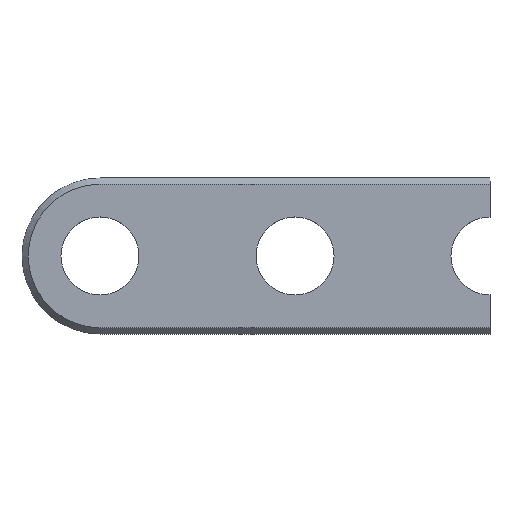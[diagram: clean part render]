
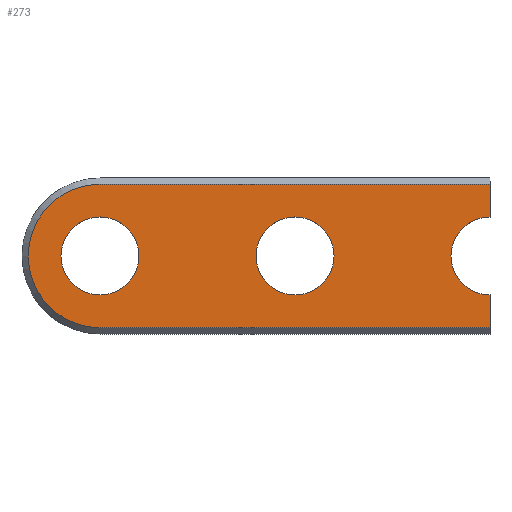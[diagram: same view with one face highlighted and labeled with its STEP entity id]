
A CAD part, top view. The second image highlights one B-rep face of the part: STEP entity #273.
In plain terms, the highlighted planar face has unit normal (0, 0, 1).
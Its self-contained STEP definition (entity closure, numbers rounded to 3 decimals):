
#7 = ORIENTED_EDGE ( 'NONE', *, *, #431, .F. ) ;
#10 = CARTESIAN_POINT ( 'NONE',  ( -46., 50., 20. ) ) ;
#11 = VERTEX_POINT ( 'NONE', #63 ) ;
#16 = VERTEX_POINT ( 'NONE', #308 ) ;
#21 = EDGE_CURVE ( 'NONE', #252, #81, #108, .T. ) ;
#27 = CIRCLE ( 'NONE', #348, 25. ) ;
#28 = CIRCLE ( 'NONE', #298, 25. ) ;
#45 = DIRECTION ( 'NONE',  ( 1., 0., 0. ) ) ;
#51 = AXIS2_PLACEMENT_3D ( 'NONE', #743, #634, #278 ) ;
#53 = DIRECTION ( 'NONE',  ( 0., 0., 1. ) ) ;
#54 = CARTESIAN_POINT ( 'NONE',  ( 0., 50., 20. ) ) ;
#60 = DIRECTION ( 'NONE',  ( 0., 0., 1. ) ) ;
#63 = CARTESIAN_POINT ( 'NONE',  ( 237.5, 28.349, 20. ) ) ;
#68 = DIRECTION ( 'NONE',  ( 1., 0., 0. ) ) ;
#74 = VECTOR ( 'NONE', #414, 1000. ) ;
#79 = CARTESIAN_POINT ( 'NONE',  ( 250., 25., 20. ) ) ;
#81 = VERTEX_POINT ( 'NONE', #574 ) ;
#82 = CARTESIAN_POINT ( 'NONE',  ( 250., 50., 20. ) ) ;
#89 = ORIENTED_EDGE ( 'NONE', *, *, #235, .F. ) ;
#105 = EDGE_CURVE ( 'NONE', #207, #233, #444, .T. ) ;
#108 = CIRCLE ( 'NONE', #463, 25. ) ;
#115 = CIRCLE ( 'NONE', #130, 46. ) ;
#117 = DIRECTION ( 'NONE',  ( 0., 0., 1. ) ) ;
#123 = VERTEX_POINT ( 'NONE', #341 ) ;
#125 = CARTESIAN_POINT ( 'NONE',  ( 250., 4., 20. ) ) ;
#128 = CIRCLE ( 'NONE', #555, 25. ) ;
#130 = AXIS2_PLACEMENT_3D ( 'NONE', #744, #571, #516 ) ;
#139 = DIRECTION ( 'NONE',  ( 1., 0., 0. ) ) ;
#147 = VERTEX_POINT ( 'NONE', #345 ) ;
#150 = ORIENTED_EDGE ( 'NONE', *, *, #719, .T. ) ;
#157 = VECTOR ( 'NONE', #543, 1000. ) ;
#167 = VECTOR ( 'NONE', #254, 1000. ) ;
#174 = DIRECTION ( 'NONE',  ( 0., 0., 1. ) ) ;
#176 = CIRCLE ( 'NONE', #676, 25. ) ;
#179 = CARTESIAN_POINT ( 'NONE',  ( 100., 50., 20. ) ) ;
#190 = CIRCLE ( 'NONE', #51, 25. ) ;
#202 = CARTESIAN_POINT ( 'NONE',  ( 0., 50., 20. ) ) ;
#207 = VERTEX_POINT ( 'NONE', #10 ) ;
#215 = DIRECTION ( 'NONE',  ( 0., 0., 1. ) ) ;
#233 = VERTEX_POINT ( 'NONE', #544 ) ;
#235 = EDGE_CURVE ( 'NONE', #446, #598, #28, .T. ) ;
#238 = ORIENTED_EDGE ( 'NONE', *, *, #624, .T. ) ;
#252 = VERTEX_POINT ( 'NONE', #580 ) ;
#254 = DIRECTION ( 'NONE',  ( 0., 1., 0. ) ) ;
#258 = VECTOR ( 'NONE', #710, 1000. ) ;
#273 = ADVANCED_FACE ( 'NONE', ( #305, #690, #492 ), #523, .T. ) ;
#278 = DIRECTION ( 'NONE',  ( 1., 0., 0. ) ) ;
#291 = CARTESIAN_POINT ( 'NONE',  ( 125., 50., 20. ) ) ;
#293 = ORIENTED_EDGE ( 'NONE', *, *, #587, .F. ) ;
#298 = AXIS2_PLACEMENT_3D ( 'NONE', #636, #708, #139 ) ;
#302 = LINE ( 'NONE', #701, #258 ) ;
#305 = FACE_BOUND ( 'NONE', #468, .T. ) ;
#308 = CARTESIAN_POINT ( 'NONE',  ( 0., 96., 20. ) ) ;
#319 = VERTEX_POINT ( 'NONE', #79 ) ;
#341 = CARTESIAN_POINT ( 'NONE',  ( 250., 96., 20. ) ) ;
#345 = CARTESIAN_POINT ( 'NONE',  ( 250., 4., 20. ) ) ;
#348 = AXIS2_PLACEMENT_3D ( 'NONE', #521, #60, #685 ) ;
#355 = CARTESIAN_POINT ( 'NONE',  ( 150., 50., 20. ) ) ;
#414 = DIRECTION ( 'NONE',  ( 0., 1., 0. ) ) ;
#418 = AXIS2_PLACEMENT_3D ( 'NONE', #728, #215, #611 ) ;
#431 = EDGE_CURVE ( 'NONE', #553, #542, #742, .T. ) ;
#436 = ORIENTED_EDGE ( 'NONE', *, *, #613, .F. ) ;
#444 = CIRCLE ( 'NONE', #740, 46. ) ;
#446 = VERTEX_POINT ( 'NONE', #513 ) ;
#455 = DIRECTION ( 'NONE',  ( 1., 0., 0. ) ) ;
#463 = AXIS2_PLACEMENT_3D ( 'NONE', #472, #641, #68 ) ;
#468 = EDGE_LOOP ( 'NONE', ( #485, #712 ) ) ;
#472 = CARTESIAN_POINT ( 'NONE',  ( 0., 50., 20. ) ) ;
#482 = LINE ( 'NONE', #82, #74 ) ;
#484 = ORIENTED_EDGE ( 'NONE', *, *, #489, .F. ) ;
#485 = ORIENTED_EDGE ( 'NONE', *, *, #21, .F. ) ;
#489 = EDGE_CURVE ( 'NONE', #11, #319, #190, .T. ) ;
#491 = LINE ( 'NONE', #646, #167 ) ;
#492 = FACE_OUTER_BOUND ( 'NONE', #609, .T. ) ;
#493 = ORIENTED_EDGE ( 'NONE', *, *, #643, .T. ) ;
#505 = EDGE_LOOP ( 'NONE', ( #7, #436 ) ) ;
#506 = DIRECTION ( 'NONE',  ( 0., 0., 1. ) ) ;
#513 = CARTESIAN_POINT ( 'NONE',  ( 250., 75., 20. ) ) ;
#516 = DIRECTION ( 'NONE',  ( 1., 0., 0. ) ) ;
#521 = CARTESIAN_POINT ( 'NONE',  ( 250., 50., 20. ) ) ;
#523 = PLANE ( 'NONE',  #731 ) ;
#527 = DIRECTION ( 'NONE',  ( 1., 0., 0. ) ) ;
#530 = ORIENTED_EDGE ( 'NONE', *, *, #105, .T. ) ;
#542 = VERTEX_POINT ( 'NONE', #179 ) ;
#543 = DIRECTION ( 'NONE',  ( 1., 0., 0. ) ) ;
#544 = CARTESIAN_POINT ( 'NONE',  ( 0., 4., 20. ) ) ;
#545 = EDGE_CURVE ( 'NONE', #81, #252, #176, .T. ) ;
#553 = VERTEX_POINT ( 'NONE', #355 ) ;
#555 = AXIS2_PLACEMENT_3D ( 'NONE', #291, #117, #527 ) ;
#571 = DIRECTION ( 'NONE',  ( 0., 0., 1. ) ) ;
#574 = CARTESIAN_POINT ( 'NONE',  ( -25., 50., 20. ) ) ;
#576 = CARTESIAN_POINT ( 'NONE',  ( 0., 50., 20. ) ) ;
#580 = CARTESIAN_POINT ( 'NONE',  ( 25., 50., 20. ) ) ;
#584 = ORIENTED_EDGE ( 'NONE', *, *, #631, .T. ) ;
#587 = EDGE_CURVE ( 'NONE', #598, #11, #27, .T. ) ;
#590 = EDGE_CURVE ( 'NONE', #16, #207, #115, .T. ) ;
#598 = VERTEX_POINT ( 'NONE', #689 ) ;
#609 = EDGE_LOOP ( 'NONE', ( #617, #530, #150, #238, #484, #293, #89, #493, #584 ) ) ;
#611 = DIRECTION ( 'NONE',  ( 1., 0., 0. ) ) ;
#613 = EDGE_CURVE ( 'NONE', #542, #553, #128, .T. ) ;
#617 = ORIENTED_EDGE ( 'NONE', *, *, #590, .T. ) ;
#624 = EDGE_CURVE ( 'NONE', #147, #319, #482, .T. ) ;
#631 = EDGE_CURVE ( 'NONE', #123, #16, #302, .T. ) ;
#634 = DIRECTION ( 'NONE',  ( 0., 0., 1. ) ) ;
#636 = CARTESIAN_POINT ( 'NONE',  ( 250., 50., 20. ) ) ;
#641 = DIRECTION ( 'NONE',  ( 0., 0., 1. ) ) ;
#643 = EDGE_CURVE ( 'NONE', #446, #123, #491, .T. ) ;
#646 = CARTESIAN_POINT ( 'NONE',  ( 250., 50., 20. ) ) ;
#659 = LINE ( 'NONE', #125, #157 ) ;
#676 = AXIS2_PLACEMENT_3D ( 'NONE', #576, #53, #45 ) ;
#685 = DIRECTION ( 'NONE',  ( 1., 0., 0. ) ) ;
#689 = CARTESIAN_POINT ( 'NONE',  ( 237.5, 71.651, 20. ) ) ;
#690 = FACE_BOUND ( 'NONE', #505, .T. ) ;
#701 = CARTESIAN_POINT ( 'NONE',  ( 0., 96., 20. ) ) ;
#708 = DIRECTION ( 'NONE',  ( 0., 0., 1. ) ) ;
#710 = DIRECTION ( 'NONE',  ( -1., 0., 0. ) ) ;
#712 = ORIENTED_EDGE ( 'NONE', *, *, #545, .F. ) ;
#714 = DIRECTION ( 'NONE',  ( 1., 0., 0. ) ) ;
#719 = EDGE_CURVE ( 'NONE', #233, #147, #659, .T. ) ;
#728 = CARTESIAN_POINT ( 'NONE',  ( 125., 50., 20. ) ) ;
#731 = AXIS2_PLACEMENT_3D ( 'NONE', #202, #174, #714 ) ;
#740 = AXIS2_PLACEMENT_3D ( 'NONE', #54, #506, #455 ) ;
#742 = CIRCLE ( 'NONE', #418, 25. ) ;
#743 = CARTESIAN_POINT ( 'NONE',  ( 250., 50., 20. ) ) ;
#744 = CARTESIAN_POINT ( 'NONE',  ( 0., 50., 20. ) ) ;
